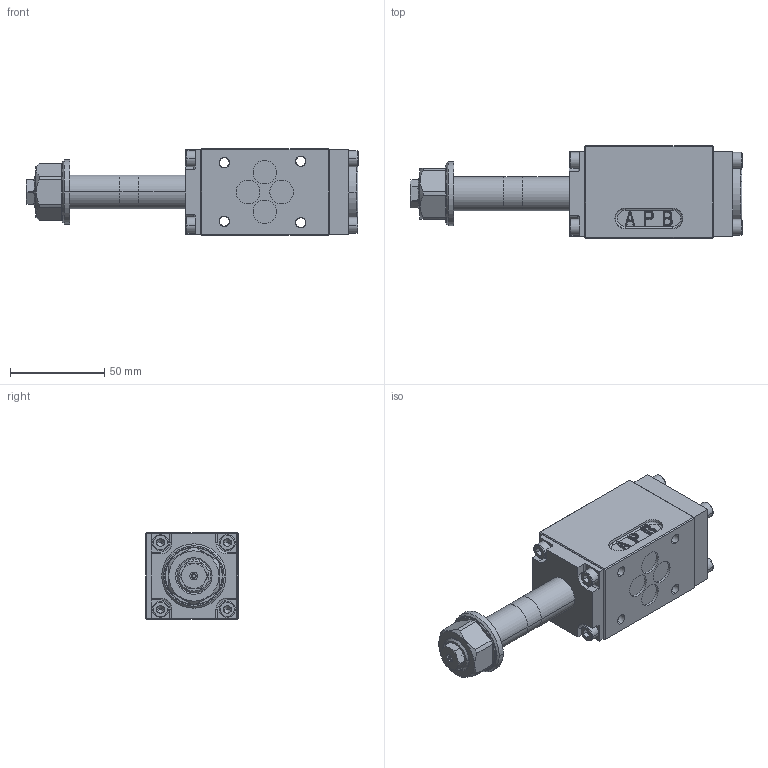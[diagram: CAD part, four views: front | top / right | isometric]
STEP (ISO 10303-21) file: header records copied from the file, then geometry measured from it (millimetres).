
FILE_DESCRIPTION (( 'STEP AP203' ), '1' );
FILE_NAME ('WDBFA06-4_2-Aside.step', '2013-07-25T14:16:47', ( 'Wandfluh AG' ), ( 'Wandfluh AG' ), 'SwSTEP 2.0', 'SolidWorks 2012', '' );
FILE_SCHEMA (( 'CONFIG_CONTROL_DESIGN' ));
Products named in the file (1): WDBFA06-4_2-Aside
Bounding box: 175.8 x 49 x 46 mm (x, y, z)
Volume: 206838.9 mm3; surface area: 56394.6 mm2
Topology: 22 solids, 22 shells, 1611 faces, 4204 edges, 2652 vertices
Faces by surface type: plane 861, cylinder 474, cone 114, torus 92, bspline 52, sphere 18
Entity records: 51229 total; most frequent: CARTESIAN_POINT 10864, DIRECTION 8784, ORIENTED_EDGE 8298, EDGE_CURVE 4149, AXIS2_PLACEMENT_3D 3195, VERTEX_POINT 2652, LINE 2394, VECTOR 2394
